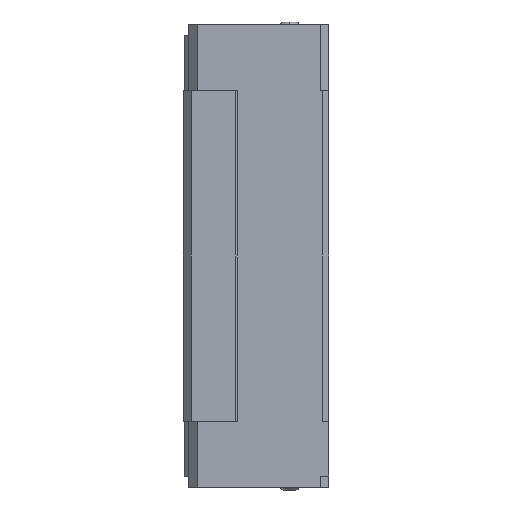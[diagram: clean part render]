
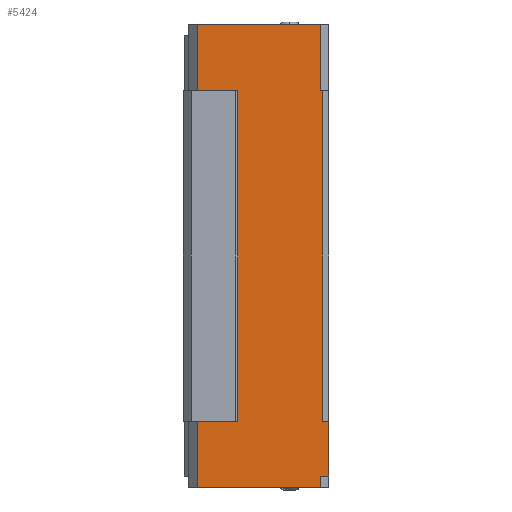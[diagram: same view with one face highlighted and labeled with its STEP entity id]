
A CAD part, left-side view. The second image highlights one B-rep face of the part: STEP entity #5424.
In plain terms, the highlighted planar face has unit normal (-1, 0, 0).
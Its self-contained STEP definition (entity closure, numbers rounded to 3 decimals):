
#30 = CARTESIAN_POINT ( 'NONE',  ( -23.7, -9.9, -59. ) ) ;
#135 = DIRECTION ( 'NONE',  ( 0., 0., -1. ) ) ;
#219 = CARTESIAN_POINT ( 'NONE',  ( -23.7, -11., 11.8 ) ) ;
#229 = EDGE_CURVE ( 'NONE', #1305, #7640, #8120, .T. ) ;
#495 = DIRECTION ( 'NONE',  ( 0., 0., 1. ) ) ;
#551 = VECTOR ( 'NONE', #8366, 1000. ) ;
#558 = CARTESIAN_POINT ( 'NONE',  ( -23.7, -9.9, 0. ) ) ;
#569 = LINE ( 'NONE', #219, #551 ) ;
#574 = VECTOR ( 'NONE', #495, 1000. ) ;
#584 = LINE ( 'NONE', #997, #574 ) ;
#685 = EDGE_CURVE ( 'NONE', #5635, #6031, #6989, .T. ) ;
#758 = CARTESIAN_POINT ( 'NONE',  ( -23.7, 12.5, 0. ) ) ;
#760 = CARTESIAN_POINT ( 'NONE',  ( -23.7, -11., -68.8 ) ) ;
#776 = CARTESIAN_POINT ( 'NONE',  ( -23.7, 12.5, 11.8 ) ) ;
#928 = EDGE_LOOP ( 'NONE', ( #2550, #2869, #2928, #2985, #3076, #3103, #3174, #3282, #3363, #3409, #3494, #3546, #3598, #3683 ) ) ;
#997 = CARTESIAN_POINT ( 'NONE',  ( -23.7, -9.5, 0. ) ) ;
#1234 = CARTESIAN_POINT ( 'NONE',  ( -23.7, -9.5, 11.8 ) ) ;
#1276 = VERTEX_POINT ( 'NONE', #2140 ) ;
#1292 = VECTOR ( 'NONE', #5146, 1000. ) ;
#1305 = VERTEX_POINT ( 'NONE', #760 ) ;
#1347 = EDGE_CURVE ( 'NONE', #7604, #7924, #5489, .T. ) ;
#1533 = DIRECTION ( 'NONE',  ( 0., 1., 0. ) ) ;
#1546 = CARTESIAN_POINT ( 'NONE',  ( -23.7, -9.5, -68.8 ) ) ;
#1633 = CARTESIAN_POINT ( 'NONE',  ( -23.7, 14., -59. ) ) ;
#1636 = CARTESIAN_POINT ( 'NONE',  ( -23.7, 0., 0. ) ) ;
#1937 = EDGE_CURVE ( 'NONE', #7779, #7924, #4269, .T. ) ;
#2019 = EDGE_CURVE ( 'NONE', #5070, #4881, #3958, .T. ) ;
#2069 = CARTESIAN_POINT ( 'NONE',  ( -23.7, -9.5, -68.8 ) ) ;
#2106 = LINE ( 'NONE', #4502, #1292 ) ;
#2140 = CARTESIAN_POINT ( 'NONE',  ( -23.7, -11., -59. ) ) ;
#2226 = DIRECTION ( 'NONE',  ( 0., -1., 0. ) ) ;
#2292 = PLANE ( 'NONE',  #2629 ) ;
#2320 = CARTESIAN_POINT ( 'NONE',  ( -23.7, -9.5, 0. ) ) ;
#2359 = VECTOR ( 'NONE', #2627, 1000. ) ;
#2461 = VECTOR ( 'NONE', #3659, 1000. ) ;
#2527 = LINE ( 'NONE', #5224, #2359 ) ;
#2531 = CARTESIAN_POINT ( 'NONE',  ( -23.7, 12.5, 0. ) ) ;
#2550 = ORIENTED_EDGE ( 'NONE', *, *, #2019, .T. ) ;
#2570 = LINE ( 'NONE', #8191, #2461 ) ;
#2627 = DIRECTION ( 'NONE',  ( 0., 0., -1. ) ) ;
#2629 = AXIS2_PLACEMENT_3D ( 'NONE', #1636, #3610, #8143 ) ;
#2869 = ORIENTED_EDGE ( 'NONE', *, *, #5774, .T. ) ;
#2928 = ORIENTED_EDGE ( 'NONE', *, *, #685, .F. ) ;
#2946 = CARTESIAN_POINT ( 'NONE',  ( -23.7, -9.5, 0. ) ) ;
#2985 = ORIENTED_EDGE ( 'NONE', *, *, #4070, .F. ) ;
#3076 = ORIENTED_EDGE ( 'NONE', *, *, #229, .F. ) ;
#3103 = ORIENTED_EDGE ( 'NONE', *, *, #7210, .T. ) ;
#3174 = ORIENTED_EDGE ( 'NONE', *, *, #4334, .F. ) ;
#3282 = ORIENTED_EDGE ( 'NONE', *, *, #1347, .T. ) ;
#3354 = DIRECTION ( 'NONE',  ( 0., -1., 0. ) ) ;
#3363 = ORIENTED_EDGE ( 'NONE', *, *, #1937, .F. ) ;
#3380 = DIRECTION ( 'NONE',  ( 0., 0., -1. ) ) ;
#3409 = ORIENTED_EDGE ( 'NONE', *, *, #3533, .T. ) ;
#3494 = ORIENTED_EDGE ( 'NONE', *, *, #3561, .T. ) ;
#3512 = FACE_OUTER_BOUND ( 'NONE', #928, .T. ) ;
#3533 = EDGE_CURVE ( 'NONE', #7779, #5671, #584, .T. ) ;
#3546 = ORIENTED_EDGE ( 'NONE', *, *, #4369, .T. ) ;
#3561 = EDGE_CURVE ( 'NONE', #5671, #4990, #569, .T. ) ;
#3598 = ORIENTED_EDGE ( 'NONE', *, *, #5014, .T. ) ;
#3610 = DIRECTION ( 'NONE',  ( 1., 0., 0. ) ) ;
#3659 = DIRECTION ( 'NONE',  ( 0., 0., 1. ) ) ;
#3683 = ORIENTED_EDGE ( 'NONE', *, *, #7965, .T. ) ;
#3885 = CARTESIAN_POINT ( 'NONE',  ( -23.7, 12.5, -70.8 ) ) ;
#3902 = DIRECTION ( 'NONE',  ( 0., 1., 0. ) ) ;
#3927 = VECTOR ( 'NONE', #1533, 1000. ) ;
#3958 = LINE ( 'NONE', #1633, #3927 ) ;
#3980 = CARTESIAN_POINT ( 'NONE',  ( -23.7, 14., -70.8 ) ) ;
#4070 = EDGE_CURVE ( 'NONE', #7640, #5635, #7875, .T. ) ;
#4169 = VECTOR ( 'NONE', #2226, 1000. ) ;
#4176 = CARTESIAN_POINT ( 'NONE',  ( -23.7, 13.9, 0. ) ) ;
#4269 = LINE ( 'NONE', #2320, #4169 ) ;
#4334 = EDGE_CURVE ( 'NONE', #7604, #1276, #7027, .T. ) ;
#4369 = EDGE_CURVE ( 'NONE', #4990, #7450, #6830, .T. ) ;
#4502 = CARTESIAN_POINT ( 'NONE',  ( -23.7, 5.3, 0. ) ) ;
#4812 = VECTOR ( 'NONE', #8054, 1000. ) ;
#4881 = VERTEX_POINT ( 'NONE', #5808 ) ;
#4990 = VERTEX_POINT ( 'NONE', #776 ) ;
#5014 = EDGE_CURVE ( 'NONE', #7450, #7328, #5147, .T. ) ;
#5070 = VERTEX_POINT ( 'NONE', #7442 ) ;
#5146 = DIRECTION ( 'NONE',  ( 0., 0., -1. ) ) ;
#5147 = LINE ( 'NONE', #4176, #4812 ) ;
#5224 = CARTESIAN_POINT ( 'NONE',  ( -23.7, 12.5, 0. ) ) ;
#5424 = ADVANCED_FACE ( 'NONE', ( #3512 ), #2292, .F. ) ;
#5484 = VECTOR ( 'NONE', #8257, 1000. ) ;
#5489 = LINE ( 'NONE', #30, #5484 ) ;
#5635 = VERTEX_POINT ( 'NONE', #6404 ) ;
#5671 = VERTEX_POINT ( 'NONE', #1234 ) ;
#5774 = EDGE_CURVE ( 'NONE', #4881, #6031, #2527, .T. ) ;
#5808 = CARTESIAN_POINT ( 'NONE',  ( -23.7, 12.5, -59. ) ) ;
#6031 = VERTEX_POINT ( 'NONE', #3885 ) ;
#6042 = CARTESIAN_POINT ( 'NONE',  ( -23.7, -9.9, -59. ) ) ;
#6404 = CARTESIAN_POINT ( 'NONE',  ( -23.7, -9.5, -70.8 ) ) ;
#6589 = CARTESIAN_POINT ( 'NONE',  ( -23.7, -9.9, -59. ) ) ;
#6830 = LINE ( 'NONE', #758, #6837 ) ;
#6837 = VECTOR ( 'NONE', #3380, 1000. ) ;
#6859 = VECTOR ( 'NONE', #3354, 1000. ) ;
#6989 = LINE ( 'NONE', #3980, #7052 ) ;
#7027 = LINE ( 'NONE', #6589, #6859 ) ;
#7052 = VECTOR ( 'NONE', #3902, 1000. ) ;
#7210 = EDGE_CURVE ( 'NONE', #1305, #1276, #2570, .T. ) ;
#7328 = VERTEX_POINT ( 'NONE', #8270 ) ;
#7442 = CARTESIAN_POINT ( 'NONE',  ( -23.7, 5.3, -59. ) ) ;
#7450 = VERTEX_POINT ( 'NONE', #2531 ) ;
#7604 = VERTEX_POINT ( 'NONE', #6042 ) ;
#7640 = VERTEX_POINT ( 'NONE', #1546 ) ;
#7764 = VECTOR ( 'NONE', #135, 1000. ) ;
#7779 = VERTEX_POINT ( 'NONE', #2946 ) ;
#7852 = DIRECTION ( 'NONE',  ( 0., 1., 0. ) ) ;
#7875 = LINE ( 'NONE', #2069, #7764 ) ;
#7924 = VERTEX_POINT ( 'NONE', #558 ) ;
#7965 = EDGE_CURVE ( 'NONE', #7328, #5070, #2106, .T. ) ;
#8054 = DIRECTION ( 'NONE',  ( 0., -1., 0. ) ) ;
#8109 = VECTOR ( 'NONE', #7852, 1000. ) ;
#8120 = LINE ( 'NONE', #8245, #8109 ) ;
#8143 = DIRECTION ( 'NONE',  ( 0., 0., -1. ) ) ;
#8191 = CARTESIAN_POINT ( 'NONE',  ( -23.7, -11., -59. ) ) ;
#8245 = CARTESIAN_POINT ( 'NONE',  ( -23.7, -11., -68.8 ) ) ;
#8257 = DIRECTION ( 'NONE',  ( 0., 0., 1. ) ) ;
#8270 = CARTESIAN_POINT ( 'NONE',  ( -23.7, 5.3, 0. ) ) ;
#8366 = DIRECTION ( 'NONE',  ( 0., 1., 0. ) ) ;
